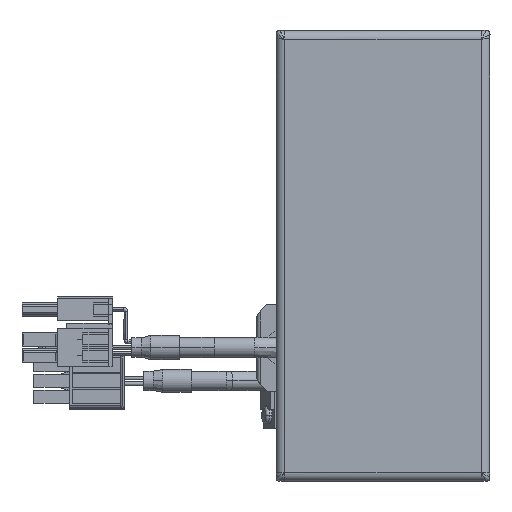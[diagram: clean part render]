
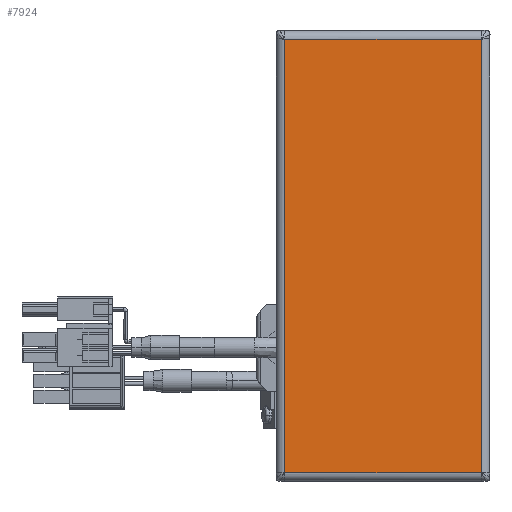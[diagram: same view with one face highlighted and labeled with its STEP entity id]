
A CAD part, top view. The second image highlights one B-rep face of the part: STEP entity #7924.
In plain terms, the highlighted planar face has unit normal (0, 0, 1) as drawn and (0, 0, -1) by its records, which use the part's own axes.
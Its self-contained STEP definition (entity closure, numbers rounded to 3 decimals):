
#2172 = EDGE_CURVE ( 'NONE', #29346, #7547, #37884, .T. ) ;
#2789 = DIRECTION ( 'NONE',  ( 1., 0., 0. ) ) ;
#4225 = CARTESIAN_POINT ( 'NONE',  ( 0., 0., -1.5 ) ) ;
#6509 = EDGE_CURVE ( 'NONE', #42410, #42971, #15128, .T. ) ;
#7547 = VERTEX_POINT ( 'NONE', #55765 ) ;
#7647 = ORIENTED_EDGE ( 'NONE', *, *, #6509, .T. ) ;
#7924 = ADVANCED_FACE ( 'NONE', ( #14965 ), #40981, .T. ) ;
#8906 = DIRECTION ( 'NONE',  ( -1., 0., 0. ) ) ;
#14965 = FACE_OUTER_BOUND ( 'NONE', #55150, .T. ) ;
#15128 = LINE ( 'NONE', #37928, #38266 ) ;
#18685 = LINE ( 'NONE', #24721, #41802 ) ;
#18868 = CARTESIAN_POINT ( 'NONE',  ( -56.763, 25.763, -1.5 ) ) ;
#20350 = CARTESIAN_POINT ( 'NONE',  ( -56.763, -25.763, -1.5 ) ) ;
#21015 = CARTESIAN_POINT ( 'NONE',  ( 56.763, -25.763, -1.5 ) ) ;
#21772 = LINE ( 'NONE', #29194, #57129 ) ;
#24721 = CARTESIAN_POINT ( 'NONE',  ( -56.763, -25.793, -1.5 ) ) ;
#28789 = DIRECTION ( 'NONE',  ( -1., 0., 0. ) ) ;
#29194 = CARTESIAN_POINT ( 'NONE',  ( 56.763, 25.793, -1.5 ) ) ;
#29346 = VERTEX_POINT ( 'NONE', #18868 ) ;
#29349 = DIRECTION ( 'NONE',  ( 0., 1., 0. ) ) ;
#29386 = DIRECTION ( 'NONE',  ( 0., -1., 0. ) ) ;
#31552 = ORIENTED_EDGE ( 'NONE', *, *, #2172, .T. ) ;
#36564 = DIRECTION ( 'NONE',  ( 0., 0., -1. ) ) ;
#37884 = LINE ( 'NONE', #48793, #48646 ) ;
#37928 = CARTESIAN_POINT ( 'NONE',  ( 56.793, -25.763, -1.5 ) ) ;
#38105 = EDGE_CURVE ( 'NONE', #7547, #42410, #21772, .T. ) ;
#38266 = VECTOR ( 'NONE', #28789, 1000. ) ;
#40294 = EDGE_CURVE ( 'NONE', #42971, #29346, #18685, .T. ) ;
#40981 = PLANE ( 'NONE',  #44765 ) ;
#41802 = VECTOR ( 'NONE', #29349, 1000. ) ;
#42410 = VERTEX_POINT ( 'NONE', #21015 ) ;
#42971 = VERTEX_POINT ( 'NONE', #20350 ) ;
#44765 = AXIS2_PLACEMENT_3D ( 'NONE', #4225, #36564, #8906 ) ;
#47122 = ORIENTED_EDGE ( 'NONE', *, *, #40294, .T. ) ;
#48646 = VECTOR ( 'NONE', #2789, 1000. ) ;
#48793 = CARTESIAN_POINT ( 'NONE',  ( -56.793, 25.763, -1.5 ) ) ;
#55150 = EDGE_LOOP ( 'NONE', ( #58751, #7647, #47122, #31552 ) ) ;
#55765 = CARTESIAN_POINT ( 'NONE',  ( 56.763, 25.763, -1.5 ) ) ;
#57129 = VECTOR ( 'NONE', #29386, 1000. ) ;
#58751 = ORIENTED_EDGE ( 'NONE', *, *, #38105, .T. ) ;
